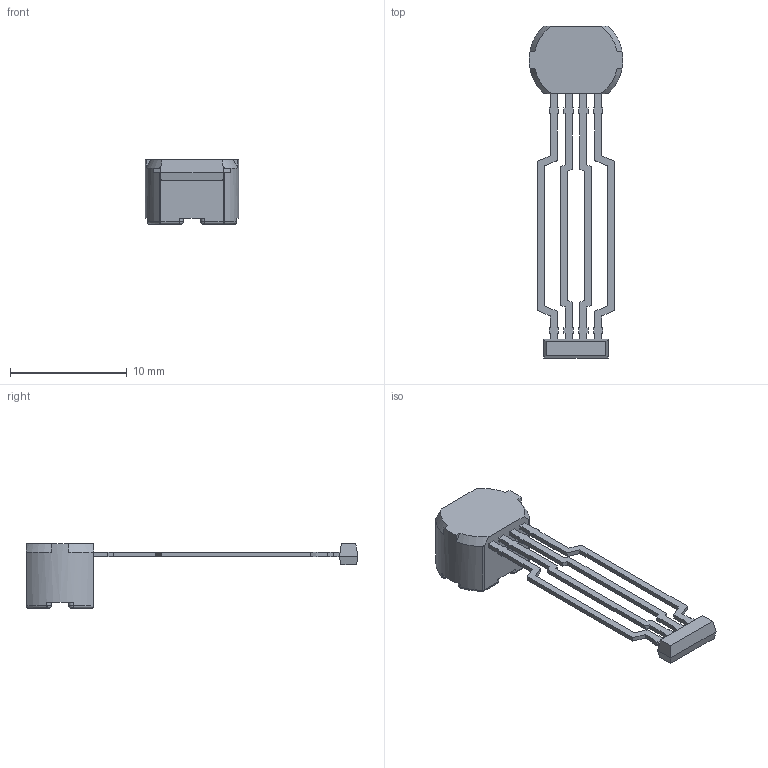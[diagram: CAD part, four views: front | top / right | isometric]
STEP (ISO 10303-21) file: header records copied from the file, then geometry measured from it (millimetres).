
FILE_DESCRIPTION (( 'STEP AP214' ), '1' );
FILE_NAME ('SJ.STEP', '2016-10-25T19:39:14', ( '' ), ( '' ), 'SwSTEP 2.0', 'SolidWorks 2014', '' );
FILE_SCHEMA (( 'AUTOMOTIVE_DESIGN' ));
Length unit declared in the file: millimetre
Products named in the file (1): SJ
Bounding box: 8 x 28.4 x 5.5 mm (x, y, z)
Volume: 253.4 mm3; surface area: 427.5 mm2
Topology: 1 solids, 1 shells, 193 faces, 543 edges, 346 vertices
Faces by surface type: plane 142, cylinder 30, bspline 12, torus 9
Entity records: 8420 total; most frequent: CARTESIAN_POINT 1358, ORIENTED_EDGE 1078, DIRECTION 946, EDGE_CURVE 539, LINE 440, VECTOR 440, VERTEX_POINT 346, AXIS2_PLACEMENT_3D 253
